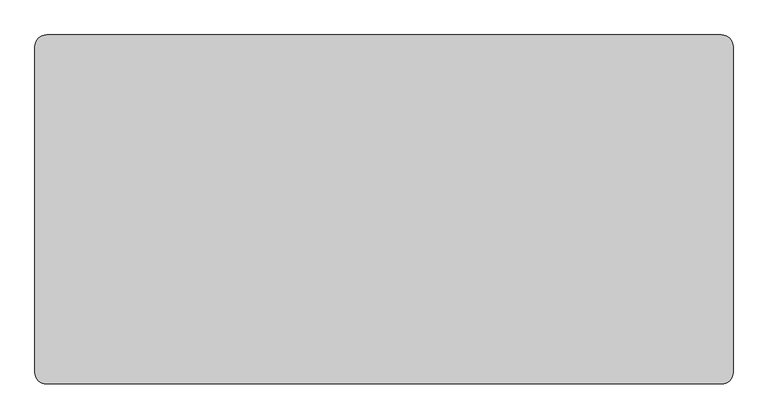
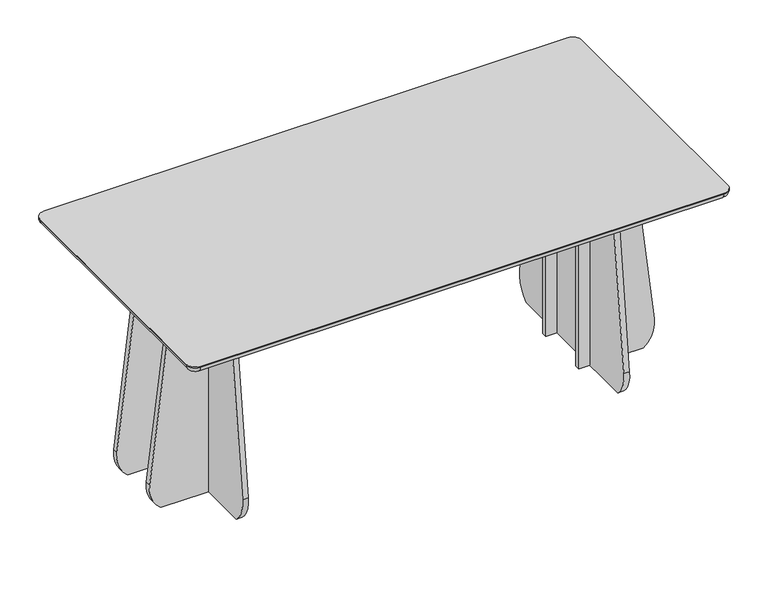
"""IFC4 building model written with IfcOpenShell, lengths in millimetres: furniture geometry, Lundbergs Möbler - Funghi Largo - Table - Rectangular - 180x90 - H73 : Lundbergs Möbler - Funghi Largo - Table - Rectangular - 180x90 - H73."""

import ifcopenshell
import ifcopenshell.guid

model = None  # the IFC model being written
_history = None  # IfcOwnerHistory: only IFC2X3 demands one
_inside = {}  # id of a spatial element -> (the spatial element, [elements in it])
_under = {}  # id of a project, library or spatial element -> (it, [spatial elements below it])
_declared = {}  # id of a project -> (the project, [libraries it declares])
_typed = {}  # id of a type object -> (the type object, [elements of that type])
_made_of = {}  # id of a material, layer set ... -> (it, [elements and type objects made of it])


def new_model(schema):
    """Start an empty IFC model of exactly this schema.

    Asked for "IFC4X3", IfcOpenShell would pick the latest addendum, in which some entities
    have other attributes; the version numbers below select the first issue.
    IFC2X3 requires an IfcOwnerHistory on every rooted entity: one is made here for all.
    """
    global model, _history
    if schema == "IFC4X3":
        model = ifcopenshell.file(schema_version=(4, 3, 0, 0))
    else:
        model = ifcopenshell.file(schema=schema)
    _inside.clear()
    _under.clear()
    _declared.clear()
    _typed.clear()
    _made_of.clear()
    _history = None
    if model.schema == "IFC2X3":
        org = make("IfcOrganization", Name="unknown")
        user = make(
            "IfcPersonAndOrganization",
            ThePerson=make("IfcPerson", FamilyName="unknown"),
            TheOrganization=org,
        )
        app = make(
            "IfcApplication",
            ApplicationDeveloper=org,
            Version="unknown",
            ApplicationFullName="unknown",
            ApplicationIdentifier="unknown",
        )
        _history = make(
            "IfcOwnerHistory",
            OwningUser=user,
            OwningApplication=app,
            ChangeAction="ADDED",
            CreationDate=0,
        )
    return model


def make(cls, **values):
    """One entity of the class cls with the attributes given. An attribute that is None is left unset."""
    return model.create_entity(
        cls, **{name: value for name, value in values.items() if value is not None}
    )


def rooted(cls, **values):
    """An entity with a GlobalId (a new one), such as an element, a storey or a relation."""
    return make(cls, GlobalId=ifcopenshell.guid.new(), OwnerHistory=_history, **values)


def si_unit(unit_type, name, prefix=None):
    """IfcSIUnit, for example si_unit("LENGTHUNIT", "METRE", prefix="MILLI")."""
    return make("IfcSIUnit", UnitType=unit_type, Prefix=prefix, Name=name)


def assignment(units):
    """IfcUnitAssignment: the units of a project."""
    return None if units is None else make("IfcUnitAssignment", Units=units)


def point(xyz):
    """IfcCartesianPoint."""
    return None if xyz is None else make("IfcCartesianPoint", Coordinates=xyz)


def direction(xyz):
    """IfcDirection."""
    return None if xyz is None else make("IfcDirection", DirectionRatios=xyz)


def frame(location, z_axis=None, x_axis=None):
    """IfcAxis2Placement3D, a coordinate frame: its origin and axes. An axis left out is left unset."""
    return make(
        "IfcAxis2Placement3D",
        Location=point(location),
        Axis=direction(z_axis),
        RefDirection=direction(x_axis),
    )


def frame_2d(location, x_axis=None):
    """IfcAxis2Placement2D, a coordinate frame in the plane: its origin and x axis."""
    return make(
        "IfcAxis2Placement2D", Location=point(location), RefDirection=direction(x_axis)
    )


def origin():
    """The frame at (0, 0, 0) with its axes left unset."""
    return frame((0.0, 0.0, 0.0))


def place(relative_to, where):
    """IfcLocalPlacement: puts the frame where relative to a parent placement (None: the world)."""
    return make(
        "IfcLocalPlacement", PlacementRelTo=relative_to, RelativePlacement=where
    )


def context(
    kind, dimensions, precision=None, world=None, true_north=None, identifier=None
):
    """IfcGeometricRepresentationContext, for example the 3D "Model" context."""
    return make(
        "IfcGeometricRepresentationContext",
        ContextIdentifier=identifier,
        ContextType=kind,
        CoordinateSpaceDimension=dimensions,
        Precision=precision,
        WorldCoordinateSystem=world,
        TrueNorth=true_north,
    )


def project(units=None, contexts=None):
    """IfcProject with its units and contexts."""
    return rooted(
        "IfcProject",
        Name="project",
        RepresentationContexts=contexts,
        UnitsInContext=assignment(units),
    )


def spatial(cls, under=None, at=None, **own):
    """A site, building, storey or space (cls), placed at a placement, below another one or the project."""
    s = rooted(cls, ObjectPlacement=at, **own)
    if under is not None:
        _under.setdefault(under.id(), (under, []))[1].append(s)
    return s


def polyline(points):
    """IfcPolyline through the points."""
    return make("IfcPolyline", Points=[point(p) for p in points])


def circle_curve(where, radius):
    """IfcCircle in the frame where."""
    return make("IfcCircle", Position=where, Radius=radius)


def ellipse_curve(where, semi_axis1, semi_axis2):
    """IfcEllipse in the frame where."""
    return make(
        "IfcEllipse", Position=where, SemiAxis1=semi_axis1, SemiAxis2=semi_axis2
    )


def trimmed(basis, trim1, trim2, sense, master):
    """IfcTrimmedCurve: the piece of a basis curve between two trims."""
    return make(
        "IfcTrimmedCurve",
        BasisCurve=basis,
        Trim1=trim1,
        Trim2=trim2,
        SenseAgreement=sense,
        MasterRepresentation=master,
    )


def segment(curve, same_sense, transition):
    """IfcCompositeCurveSegment."""
    return make(
        "IfcCompositeCurveSegment",
        Transition=transition,
        SameSense=same_sense,
        ParentCurve=curve,
    )


def composite_curve(segments, self_intersect=None):
    """IfcCompositeCurve: segments joined end to end."""
    return make("IfcCompositeCurve", Segments=segments, SelfIntersect=self_intersect)


def outline(outer, holes=None, kind="AREA"):
    """IfcArbitraryClosedProfileDef: a profile drawn as a closed curve; with holes, ...WithVoids."""
    if holes is None:
        return make("IfcArbitraryClosedProfileDef", ProfileType=kind, OuterCurve=outer)
    return make(
        "IfcArbitraryProfileDefWithVoids",
        ProfileType=kind,
        OuterCurve=outer,
        InnerCurves=holes,
    )


def extrude(swept, where, along, depth):
    """IfcExtrudedAreaSolid: the profile swept, set in the frame where, extruded along a direction by depth."""
    return make(
        "IfcExtrudedAreaSolid",
        SweptArea=swept,
        Position=where,
        ExtrudedDirection=direction(along),
        Depth=depth,
    )


def shape(context_of_items, identifier, shape_type, items):
    """IfcShapeRepresentation: the items that make up one representation, for example the "Body"."""
    return make(
        "IfcShapeRepresentation",
        ContextOfItems=context_of_items,
        RepresentationIdentifier=identifier,
        RepresentationType=shape_type,
        Items=items,
    )


def source(mapping_origin, context_of_items, identifier, shape_type, items):
    """IfcRepresentationMap: a shape defined once, which mapped items show again and again."""
    return make(
        "IfcRepresentationMap",
        MappingOrigin=mapping_origin,
        MappedRepresentation=shape(context_of_items, identifier, shape_type, items),
    )


def transform(
    local_origin,
    x_axis=None,
    y_axis=None,
    z_axis=None,
    scale=None,
    scale2=None,
    scale3=None,
    uniform=True,
):
    """IfcCartesianTransformationOperator3D, or its non-uniform kind. x_axis, y_axis, z_axis: its Axis1, 2, 3."""
    if uniform:
        return make(
            "IfcCartesianTransformationOperator3D",
            Axis1=direction(x_axis),
            Axis2=direction(y_axis),
            LocalOrigin=point(local_origin),
            Scale=scale,
            Axis3=direction(z_axis),
        )
    return make(
        "IfcCartesianTransformationOperator3DnonUniform",
        Axis1=direction(x_axis),
        Axis2=direction(y_axis),
        LocalOrigin=point(local_origin),
        Scale=scale,
        Axis3=direction(z_axis),
        Scale2=scale2,
        Scale3=scale3,
    )


def mapped(mapping_source, mapping_target):
    """IfcMappedItem: shows the shape of a source again, moved by a transform."""
    return make(
        "IfcMappedItem", MappingSource=mapping_source, MappingTarget=mapping_target
    )


def made_of(thing, what):
    """Note that an element or type object is made of a material, layer set ...; save() writes the relation."""
    if what is not None:
        _made_of.setdefault(what.id(), (what, []))[1].append(thing)
    return thing


def element(
    cls,
    number,
    at=None,
    inside=None,
    cuts=None,
    type_object=None,
    material=None,
    context=None,
    identifier="Body",
    shape_type=None,
    held_by="IfcProductDefinitionShape",
    body=None,
    shapes=None,
    **own,
):
    """One element of the class cls, such as IfcWall. Its Tag is "e" and its number.

    at: its placement. inside: the storey or other place that contains it. cuts: it is an
    opening in that element (IfcRelVoidsElement). A single representation is given by context,
    identifier, shape_type and body (its items); several are given by shapes. held_by: the class
    of the entity that holds the representations. save() writes the other relations.
    """
    e = rooted(cls, Tag="e%d" % number, ObjectPlacement=at, **own)
    if body is not None:
        shapes = [shape(context, identifier, shape_type, body)]
    if shapes is not None:
        e.Representation = make(held_by, Representations=shapes)
    if inside is not None:
        _inside.setdefault(inside.id(), (inside, []))[1].append(e)
    if cuts is not None:
        rooted(
            "IfcRelVoidsElement", RelatingBuildingElement=cuts, RelatedOpeningElement=e
        )
    if type_object is not None:
        _typed.setdefault(type_object.id(), (type_object, []))[1].append(e)
    return made_of(e, material)


def aggregate(whole, parts):
    """IfcRelAggregates: a whole, such as a stair, and the parts it consists of."""
    return rooted("IfcRelAggregates", RelatingObject=whole, RelatedObjects=parts)


def save(model, path):
    """Write the relations noted so far, then the file.

    IfcRelAggregates (storeys below a building ...), IfcRelContainedInSpatialStructure (elements
    in a storey), IfcRelDefinesByType, IfcRelAssociatesMaterial and IfcRelDeclares: one each for
    every whole, place, type object, material and project.
    """
    for whole, parts in _under.values():
        aggregate(whole, parts)
    for where, things in _inside.values():
        rooted(
            "IfcRelContainedInSpatialStructure",
            RelatedElements=things,
            RelatingStructure=where,
        )
    for kind, things in _typed.values():
        rooted("IfcRelDefinesByType", RelatedObjects=things, RelatingType=kind)
    for what, things in _made_of.values():
        rooted("IfcRelAssociatesMaterial", RelatedObjects=things, RelatingMaterial=what)
    for by, libraries in _declared.values():
        rooted("IfcRelDeclares", RelatingContext=by, RelatedDefinitions=libraries)
    model.write(path)


def plane_surface(at):
    """IfcPlane: the flat surface through the origin of the frame at, square to its z axis."""
    return make("IfcPlane", Position=at)


def cylinder_surface(at, radius):
    """IfcCylindricalSurface: all points at the distance radius from the z axis of the frame at."""
    return make("IfcCylindricalSurface", Position=at, Radius=radius)


def revolved_surface(curve, axis_point, axis_direction):
    """IfcSurfaceOfRevolution: the curve turned about the line through axis_point along axis_direction."""
    return make(
        "IfcSurfaceOfRevolution",
        SweptCurve=make("IfcArbitraryOpenProfileDef", ProfileType="CURVE", Curve=curve),
        AxisPosition=make("IfcAxis1Placement", Location=point(axis_point), Axis=direction(axis_direction)),
    )


def advanced_brep(points, edges, surfaces, faces):
    """IfcAdvancedBrep: a solid bounded by faces that lie on surfaces and meet in shared edges.

    An edge is (start, end): straight between two places in points (the first is 0);
    or (start, end, curve); or (start, end, curve, False) where it runs against its curve.
    A face is (place in surfaces, loops), or (place, loops, False) where it looks against
    its surface's normal. A loop lists edges by number (the first is 1), with a minus sign
    where the edge is run from its end to its start. The first loop is the outer one.
    """
    corners = [point(p) for p in points]
    vertices = [make("IfcVertexPoint", VertexGeometry=c) for c in corners]
    made = []
    for start, end, *more in edges:
        made.append(
            make(
                "IfcEdgeCurve",
                EdgeStart=vertices[start],
                EdgeEnd=vertices[end],
                EdgeGeometry=more[0] if more else make("IfcPolyline", Points=[corners[start], corners[end]]),
                SameSense=more[1] if len(more) > 1 else True,
            )
        )
    hull = []
    for where, loops, *sense in faces:
        bounds = []
        for j, loop in enumerate(loops):
            ring = [make("IfcOrientedEdge", EdgeElement=made[abs(k) - 1], Orientation=k > 0) for k in loop]
            bounds.append(
                make(
                    "IfcFaceOuterBound" if j == 0 else "IfcFaceBound",
                    Bound=make("IfcEdgeLoop", EdgeList=ring),
                    Orientation=True,
                )
            )
        hull.append(make("IfcAdvancedFace", Bounds=bounds, FaceSurface=surfaces[where], SameSense=sense[0] if sense else True))
    return make("IfcAdvancedBrep", Outer=make("IfcClosedShell", CfsFaces=hull))


def furniture_1f910224(model_context):
    return source(origin(), model_context, "Body", "SolidModel", [
        advanced_brep(
        [(-880.0, 420.0, 706.0), (-900.0, 420.0, 726.0), (-870.0, 450.0, 726.0), (-870.0, 430.0, 706.0), (-880.0, -420.0, 706.0), (-900.0, -420.0, 726.0), (-870.0, -430.0, 706.0), (-870.0, -450.0, 726.0), (870.0, -430.0, 706.0), (870.0, -450.0, 726.0), (880.0, -420.0, 706.0), (900.0, -420.0, 726.0), (880.0, 420.0, 706.0), (900.0, 420.0, 726.0), (870.0, 430.0, 706.0), (870.0, 450.0, 726.0), (870.0, 450.0, 730.0), (-870.0, 450.0, 730.0), (-900.0, 420.0, 730.0), (-900.0, -420.0, 730.0), (-870.0, -450.0, 730.0), (870.0, -450.0, 730.0), (900.0, -420.0, 730.0), (900.0, 420.0, 730.0)],
        [
            (0, 1, circle_curve(frame((-880.0, 420.0, 726.0), z_axis=(0.0, 1.0, 0.0), x_axis=(1.0, 0.0, 0.0)), 20.0)),
            (1, 2, circle_curve(frame((-870.0, 420.0, 726.0), z_axis=(0.0, 0.0, -1.0), x_axis=(0.0, 1.0, 0.0)), 30.0)),
            (2, 3, circle_curve(frame((-870.0, 430.0, 726.0), z_axis=(-1.0, 0.0, 0.0), x_axis=(0.0, -1.0, 0.0)), 20.0)),
            (3, 0, circle_curve(frame((-870.0, 420.0, 706.0), z_axis=(0.0, 0.0, 1.0), x_axis=(0.0, 1.0, 0.0)), 10.0)),
            (0, 4),
            (4, 5, circle_curve(frame((-880.0, -420.0, 726.0), z_axis=(0.0, 1.0, 0.0), x_axis=(1.0, 0.0, 0.0)), 20.0)),
            (5, 1),
            (4, 6, circle_curve(frame((-870.0, -420.0, 706.0), z_axis=(0.0, 0.0, 1.0), x_axis=(-1.0, 0.0, 0.0)), 10.0)),
            (6, 7, circle_curve(frame((-870.0, -430.0, 726.0), z_axis=(-1.0, 0.0, 0.0), x_axis=(0.0, 1.0, 0.0)), 20.0)),
            (7, 5, circle_curve(frame((-870.0, -420.0, 726.0), z_axis=(0.0, 0.0, -1.0), x_axis=(-1.0, 0.0, 0.0)), 30.0)),
            (6, 8),
            (8, 9, circle_curve(frame((870.0, -430.0, 726.0), z_axis=(-1.0, 0.0, 0.0), x_axis=(0.0, 1.0, 0.0)), 20.0)),
            (9, 7),
            (8, 10, circle_curve(frame((870.0, -420.0, 706.0), z_axis=(0.0, 0.0, 1.0), x_axis=(0.0, -1.0, 0.0)), 10.0)),
            (10, 11, circle_curve(frame((880.0, -420.0, 726.0), z_axis=(0.0, -1.0, 0.0), x_axis=(-1.0, 0.0, 0.0)), 20.0)),
            (11, 9, circle_curve(frame((870.0, -420.0, 726.0), z_axis=(0.0, 0.0, -1.0), x_axis=(0.0, -1.0, 0.0)), 30.0)),
            (10, 12),
            (12, 13, circle_curve(frame((880.0, 420.0, 726.0), z_axis=(0.0, -1.0, 0.0), x_axis=(-1.0, 0.0, 0.0)), 20.0)),
            (13, 11),
            (12, 14, circle_curve(frame((870.0, 420.0, 706.0), z_axis=(0.0, 0.0, 1.0), x_axis=(1.0, 0.0, 0.0)), 10.0)),
            (14, 15, circle_curve(frame((870.0, 430.0, 726.0), z_axis=(1.0, 0.0, 0.0), x_axis=(0.0, -1.0, 0.0)), 20.0)),
            (15, 13, circle_curve(frame((870.0, 420.0, 726.0), z_axis=(0.0, 0.0, -1.0), x_axis=(1.0, 0.0, 0.0)), 30.0)),
            (2, 15),
            (14, 3),
            (16, 17),
            (17, 18, circle_curve(frame((-870.0, 420.0, 730.0), z_axis=(0.0, 0.0, 1.0), x_axis=(0.0, 1.0, 0.0)), 30.0)),
            (18, 19),
            (19, 20, circle_curve(frame((-870.0, -420.0, 730.0), z_axis=(0.0, 0.0, 1.0), x_axis=(0.0, 1.0, 0.0)), 30.0)),
            (20, 21),
            (21, 22, circle_curve(frame((870.0, -420.0, 730.0), z_axis=(0.0, 0.0, 1.0), x_axis=(0.0, 1.0, 0.0)), 30.0)),
            (22, 23),
            (23, 16, circle_curve(frame((870.0, 420.0, 730.0), z_axis=(0.0, 0.0, 1.0), x_axis=(0.0, 1.0, 0.0)), 30.0)),
            (16, 15),
            (2, 17),
            (1, 18),
            (5, 19),
            (7, 20),
            (9, 21),
            (11, 22),
            (13, 23),
        ],
        [
            revolved_surface(trimmed(ellipse_curve(frame((-870.0, 430.0, 726.0), z_axis=(1.0, 0.0, 0.0), x_axis=(0.0, -1.0, 0.0)), 20.0, 20.0), [point((-870.0, 430.0, 706.0))], [point((-870.0, 450.0, 726.0))], True, "CARTESIAN"), (-870.0, 420.0, 0.0), (0.0, 0.0, 1.0)),
            cylinder_surface(frame((-880.0, 420.0, 726.0), z_axis=(0.0, -1.0, 0.0), x_axis=(1.0, 0.0, 0.0)), 20.0),
            revolved_surface(trimmed(ellipse_curve(frame((-880.0, -420.0, 726.0), z_axis=(0.0, 1.0, 0.0), x_axis=(1.0, 0.0, 0.0)), 20.0, 20.0), [point((-880.0, -420.0, 706.0))], [point((-900.0, -420.0, 726.0))], True, "CARTESIAN"), (-870.0, -420.0, 0.0), (0.0, 0.0, 1.0)),
            cylinder_surface(frame((-870.0, -430.0, 726.0), z_axis=(1.0, 0.0, 0.0), x_axis=(0.0, 1.0, 0.0)), 20.0),
            revolved_surface(trimmed(ellipse_curve(frame((870.0, -430.0, 726.0), z_axis=(-1.0, 0.0, 0.0), x_axis=(0.0, 1.0, 0.0)), 20.0, 20.0), [point((870.0, -430.0, 706.0))], [point((870.0, -450.0, 726.0))], True, "CARTESIAN"), (870.0, -420.0, 0.0), (0.0, 0.0, 1.0)),
            cylinder_surface(frame((880.0, -420.0, 726.0), z_axis=(0.0, 1.0, 0.0), x_axis=(-1.0, 0.0, 0.0)), 20.0),
            revolved_surface(trimmed(ellipse_curve(frame((880.0, 420.0, 726.0), z_axis=(0.0, -1.0, 0.0), x_axis=(-1.0, 0.0, 0.0)), 20.0, 20.0), [point((880.0, 420.0, 706.0))], [point((900.0, 420.0, 726.0))], True, "CARTESIAN"), (870.0, 420.0, 0.0), (0.0, 0.0, 1.0)),
            cylinder_surface(frame((870.0, 430.0, 726.0), z_axis=(-1.0, 0.0, 0.0), x_axis=(0.0, -1.0, 0.0)), 20.0),
            plane_surface(frame((-870.0, 450.0, 730.0), z_axis=(0.0, 0.0, 1.0), x_axis=(-1.0, 0.0, 0.0))),
            plane_surface(frame((-870.0, 450.0, 706.0), z_axis=(0.0, 0.0, -1.0), x_axis=(1.0, 0.0, 0.0))),
            plane_surface(frame((870.0, 450.0, 730.0), z_axis=(0.0, 1.0, 0.0), x_axis=(0.0, 0.0, -1.0))),
            cylinder_surface(frame((-870.0, 420.0, 706.0), z_axis=(0.0, 0.0, 1.0), x_axis=(0.0, 1.0, 0.0)), 30.0),
            plane_surface(frame((-900.0, 420.0, 730.0), z_axis=(-1.0, 0.0, 0.0), x_axis=(0.0, 0.0, -1.0))),
            cylinder_surface(frame((-870.0, -420.0, 706.0), z_axis=(0.0, 0.0, 1.0), x_axis=(0.0, 1.0, 0.0)), 30.0),
            plane_surface(frame((-870.0, -450.0, 730.0), z_axis=(0.0, -1.0, 0.0), x_axis=(0.0, 0.0, -1.0))),
            cylinder_surface(frame((870.0, -420.0, 706.0), z_axis=(0.0, 0.0, 1.0), x_axis=(0.0, 1.0, 0.0)), 30.0),
            plane_surface(frame((900.0, -420.0, 730.0), z_axis=(1.0, 0.0, 0.0), x_axis=(0.0, 0.0, -1.0))),
            cylinder_surface(frame((870.0, 420.0, 706.0), z_axis=(0.0, 0.0, 1.0), x_axis=(0.0, 1.0, 0.0)), 30.0),
        ],
        [
            (0, [[1, 2, 3, 4]]),
            (1, [[-1, 5, 6, 7]]),
            (2, [[-6, 8, 9, 10]]),
            (3, [[-9, 11, 12, 13]]),
            (4, [[-12, 14, 15, 16]]),
            (5, [[-15, 17, 18, 19]]),
            (6, [[-18, 20, 21, 22]]),
            (7, [[-3, 23, -21, 24]]),
            (8, [[25, 26, 27, 28, 29, 30, 31, 32]]),
            (9, [[-4, -24, -20, -17, -14, -11, -8, -5]]),
            (10, [[-25, 33, -23, 34]]),
            (11, [[-26, -34, -2, 35]]),
            (12, [[-27, -35, -7, 36]]),
            (13, [[-28, -36, -10, 37]]),
            (14, [[-29, -37, -13, 38]]),
            (15, [[-30, -38, -16, 39]]),
            (16, [[-31, -39, -19, 40]]),
            (17, [[-32, -40, -22, -33]]),
        ],
    ),
        extrude(outline(composite_curve([segment(polyline([(681.25, 180.0), (717.25, 180.0)]), True, "CONTINUOUS"), segment(trimmed(circle_curve(frame_2d((717.25, 178.0)), 2.0), [point((717.25, 180.0))], [point((719.25, 178.0))], False, "CARTESIAN"), True, "CONTINUOUS"), segment(polyline([(719.25, 178.0), (719.25, -178.0)]), True, "CONTINUOUS"), segment(trimmed(circle_curve(frame_2d((717.25, -178.0)), 2.0), [point((719.25, -178.0))], [point((717.25, -180.0))], False, "CARTESIAN"), True, "CONTINUOUS"), segment(polyline([(717.25, -180.0), (681.25, -180.0)]), True, "CONTINUOUS"), segment(trimmed(circle_curve(frame_2d((681.25, -178.0)), 2.0), [point((681.25, -180.0))], [point((679.25, -178.0))], False, "CARTESIAN"), True, "CONTINUOUS"), segment(polyline([(679.25, -178.0), (679.25, 178.0)]), True, "CONTINUOUS"), segment(trimmed(circle_curve(frame_2d((681.25, 178.0)), 2.0), [point((679.25, 178.0))], [point((681.25, 180.0))], False, "CARTESIAN"), True, "CONTINUOUS")], self_intersect=False)), frame((0.0, 0.0, 686.0), z_axis=(0.0, 0.0, 1.0), x_axis=(1.0, 0.0, 0.0)), (0.0, 0.0, 1.0), 20.0),
        extrude(outline(composite_curve([segment(polyline([(561.25, 180.0), (651.25, 180.0)]), True, "CONTINUOUS"), segment(trimmed(circle_curve(frame_2d((651.25, 176.5)), 3.5), [point((651.25, 180.0))], [point((654.75, 176.5))], False, "CARTESIAN"), True, "CONTINUOUS"), segment(polyline([(654.75, 176.5), (654.75, 143.5)]), True, "CONTINUOUS"), segment(trimmed(circle_curve(frame_2d((651.25, 143.5)), 3.5), [point((654.75, 143.5))], [point((651.25, 140.0))], False, "CARTESIAN"), True, "CONTINUOUS"), segment(polyline([(651.25, 140.0), (561.25, 140.0)]), True, "CONTINUOUS"), segment(trimmed(circle_curve(frame_2d((561.25, 143.5)), 3.5), [point((561.25, 140.0))], [point((557.75, 143.5))], False, "CARTESIAN"), True, "CONTINUOUS"), segment(polyline([(557.75, 143.5), (557.75, 176.5)]), True, "CONTINUOUS"), segment(trimmed(circle_curve(frame_2d((561.25, 176.5)), 3.5), [point((557.75, 176.5))], [point((561.25, 180.0))], False, "CARTESIAN"), True, "CONTINUOUS")], self_intersect=False)), frame((0.0, 0.0, 686.0), z_axis=(0.0, 0.0, 1.0), x_axis=(1.0, 0.0, 0.0)), (0.0, 0.0, 1.0), 20.0),
        extrude(outline(composite_curve([segment(polyline([(561.25, -140.0), (651.25, -140.0)]), True, "CONTINUOUS"), segment(trimmed(circle_curve(frame_2d((651.25, -143.5)), 3.5), [point((651.25, -140.0))], [point((654.75, -143.5))], False, "CARTESIAN"), True, "CONTINUOUS"), segment(polyline([(654.75, -143.5), (654.75, -176.5)]), True, "CONTINUOUS"), segment(trimmed(circle_curve(frame_2d((651.25, -176.5)), 3.5), [point((654.75, -176.5))], [point((651.25, -180.0))], False, "CARTESIAN"), True, "CONTINUOUS"), segment(polyline([(651.25, -180.0), (561.25, -180.0)]), True, "CONTINUOUS"), segment(trimmed(circle_curve(frame_2d((561.25, -176.5)), 3.5), [point((561.25, -180.0))], [point((557.75, -176.5))], False, "CARTESIAN"), True, "CONTINUOUS"), segment(polyline([(557.75, -176.5), (557.75, -143.5)]), True, "CONTINUOUS"), segment(trimmed(circle_curve(frame_2d((561.25, -143.5)), 3.5), [point((557.75, -143.5))], [point((561.25, -140.0))], False, "CARTESIAN"), True, "CONTINUOUS")], self_intersect=False)), frame((0.0, 0.0, 686.0), z_axis=(0.0, 0.0, 1.0), x_axis=(1.0, 0.0, 0.0)), (0.0, 0.0, 1.0), 20.0),
        extrude(outline(composite_curve([segment(trimmed(circle_curve(frame_2d((200.0, 78.0350603)), 100.0), [point((299.2807726, 90.0070355))], [point((262.5342255, 0.0))], False, "CARTESIAN"), True, "CONTINUOUS"), segment(polyline([(262.5342255, 0.0), (-262.5342255, 0.0)]), True, "CONTINUOUS"), segment(trimmed(circle_curve(frame_2d((-200.0, 78.0350603)), 100.0), [point((-262.5342255, 0.0))], [point((-299.2807726, 90.0070355))], False, "CARTESIAN"), True, "CONTINUOUS"), segment(polyline([(-299.2807726, 90.0070355), (-224.9955121, 706.0372169), (224.9955121, 706.0372169), (299.2807726, 90.0070355)]), True, "CONTINUOUS")], self_intersect=False)), frame((624.25, 0.0, 0.0), z_axis=(1.0, 0.0, 0.0), x_axis=(0.0, 1.0, 0.0)), (0.0, 0.0, 1.0), 18.5),
        extrude(outline(composite_curve([segment(polyline([(90.0070355, 838.5307726), (706.0372169, 764.2455121), (706.0372169, 587.25), (0.0, 587.25), (0.0, 801.7842255)]), True, "CONTINUOUS"), segment(trimmed(circle_curve(frame_2d((78.0350603, 739.25)), 100.0), [point((0.0, 801.7842255))], [point((90.0070355, 838.5307726))], False, "CARTESIAN"), True, "CONTINUOUS")], self_intersect=False)), frame((0.0, 85.5, 0.0), z_axis=(0.0, 1.0, 0.0), x_axis=(0.0, 0.0, 1.0)), (0.0, 0.0, 1.0), 18.0),
        extrude(outline(composite_curve([segment(polyline([(90.0070355, 838.5307726), (706.0372169, 764.2455121), (706.0372169, 587.25), (0.0, 587.25), (0.0, 801.7842255)]), True, "CONTINUOUS"), segment(trimmed(circle_curve(frame_2d((78.0350603, 739.25)), 100.0), [point((0.0, 801.7842255))], [point((90.0070355, 838.5307726))], False, "CARTESIAN"), True, "CONTINUOUS")], self_intersect=False)), frame((0.0, -103.5, 0.0), z_axis=(0.0, 1.0, 0.0), x_axis=(0.0, 0.0, 1.0)), (0.0, 0.0, 1.0), 18.0),
        extrude(outline(composite_curve([segment(trimmed(circle_curve(frame_2d((-681.25, 178.0)), 2.0), [point((-681.25, 180.0))], [point((-679.25, 178.0))], False, "CARTESIAN"), True, "CONTINUOUS"), segment(polyline([(-679.25, 178.0), (-679.25, -178.0)]), True, "CONTINUOUS"), segment(trimmed(circle_curve(frame_2d((-681.25, -178.0)), 2.0), [point((-679.25, -178.0))], [point((-681.25, -180.0))], False, "CARTESIAN"), True, "CONTINUOUS"), segment(polyline([(-681.25, -180.0), (-717.25, -180.0)]), True, "CONTINUOUS"), segment(trimmed(circle_curve(frame_2d((-717.25, -178.0)), 2.0), [point((-717.25, -180.0))], [point((-719.25, -178.0))], False, "CARTESIAN"), True, "CONTINUOUS"), segment(polyline([(-719.25, -178.0), (-719.25, 178.0)]), True, "CONTINUOUS"), segment(trimmed(circle_curve(frame_2d((-717.25, 178.0)), 2.0), [point((-719.25, 178.0))], [point((-717.25, 180.0))], False, "CARTESIAN"), True, "CONTINUOUS"), segment(polyline([(-717.25, 180.0), (-681.25, 180.0)]), True, "CONTINUOUS")], self_intersect=False)), frame((0.0, 0.0, 686.0), z_axis=(0.0, 0.0, 1.0), x_axis=(1.0, 0.0, 0.0)), (0.0, 0.0, 1.0), 20.0),
        extrude(outline(composite_curve([segment(trimmed(circle_curve(frame_2d((-561.25, 176.5)), 3.5), [point((-561.25, 180.0))], [point((-557.75, 176.5))], False, "CARTESIAN"), True, "CONTINUOUS"), segment(polyline([(-557.75, 176.5), (-557.75, 143.5)]), True, "CONTINUOUS"), segment(trimmed(circle_curve(frame_2d((-561.25, 143.5)), 3.5), [point((-557.75, 143.5))], [point((-561.25, 140.0))], False, "CARTESIAN"), True, "CONTINUOUS"), segment(polyline([(-561.25, 140.0), (-651.25, 140.0)]), True, "CONTINUOUS"), segment(trimmed(circle_curve(frame_2d((-651.25, 143.5)), 3.5), [point((-651.25, 140.0))], [point((-654.75, 143.5))], False, "CARTESIAN"), True, "CONTINUOUS"), segment(polyline([(-654.75, 143.5), (-654.75, 176.5)]), True, "CONTINUOUS"), segment(trimmed(circle_curve(frame_2d((-651.25, 176.5)), 3.5), [point((-654.75, 176.5))], [point((-651.25, 180.0))], False, "CARTESIAN"), True, "CONTINUOUS"), segment(polyline([(-651.25, 180.0), (-561.25, 180.0)]), True, "CONTINUOUS")], self_intersect=False)), frame((0.0, 0.0, 686.0), z_axis=(0.0, 0.0, 1.0), x_axis=(1.0, 0.0, 0.0)), (0.0, 0.0, 1.0), 20.0),
        extrude(outline(composite_curve([segment(trimmed(circle_curve(frame_2d((-561.25, -143.5)), 3.5), [point((-561.25, -140.0))], [point((-557.75, -143.5))], False, "CARTESIAN"), True, "CONTINUOUS"), segment(polyline([(-557.75, -143.5), (-557.75, -176.5)]), True, "CONTINUOUS"), segment(trimmed(circle_curve(frame_2d((-561.25, -176.5)), 3.5), [point((-557.75, -176.5))], [point((-561.25, -180.0))], False, "CARTESIAN"), True, "CONTINUOUS"), segment(polyline([(-561.25, -180.0), (-651.25, -180.0)]), True, "CONTINUOUS"), segment(trimmed(circle_curve(frame_2d((-651.25, -176.5)), 3.5), [point((-651.25, -180.0))], [point((-654.75, -176.5))], False, "CARTESIAN"), True, "CONTINUOUS"), segment(polyline([(-654.75, -176.5), (-654.75, -143.5)]), True, "CONTINUOUS"), segment(trimmed(circle_curve(frame_2d((-651.25, -143.5)), 3.5), [point((-654.75, -143.5))], [point((-651.25, -140.0))], False, "CARTESIAN"), True, "CONTINUOUS"), segment(polyline([(-651.25, -140.0), (-561.25, -140.0)]), True, "CONTINUOUS")], self_intersect=False)), frame((0.0, 0.0, 686.0), z_axis=(0.0, 0.0, 1.0), x_axis=(1.0, 0.0, 0.0)), (0.0, 0.0, 1.0), 20.0),
        extrude(outline(composite_curve([segment(trimmed(circle_curve(frame_2d((200.0, 78.0350603)), 100.0), [point((299.2807726, 90.0070355))], [point((262.5342255, 0.0))], False, "CARTESIAN"), True, "CONTINUOUS"), segment(polyline([(262.5342255, 0.0), (-262.5342255, 0.0)]), True, "CONTINUOUS"), segment(trimmed(circle_curve(frame_2d((-200.0, 78.0350603)), 100.0), [point((-262.5342255, 0.0))], [point((-299.2807726, 90.0070355))], False, "CARTESIAN"), True, "CONTINUOUS"), segment(polyline([(-299.2807726, 90.0070355), (-224.9955121, 706.0372169), (224.9955121, 706.0372169), (299.2807726, 90.0070355)]), True, "CONTINUOUS")], self_intersect=False)), frame((-642.75, 0.0, 0.0), z_axis=(1.0, 0.0, 0.0), x_axis=(0.0, 1.0, 0.0)), (0.0, 0.0, 1.0), 18.5),
        extrude(outline(composite_curve([segment(trimmed(circle_curve(frame_2d((78.0350603, -739.25)), 100.0), [point((90.0070355, -838.5307726))], [point((0.0, -801.7842255))], False, "CARTESIAN"), True, "CONTINUOUS"), segment(polyline([(0.0, -801.7842255), (0.0, -587.25), (706.0372169, -587.25), (706.0372169, -764.2455121), (90.0070355, -838.5307726)]), True, "CONTINUOUS")], self_intersect=False)), frame((0.0, 85.5, 0.0), z_axis=(0.0, 1.0, 0.0), x_axis=(0.0, 0.0, 1.0)), (0.0, 0.0, 1.0), 18.0),
        extrude(outline(composite_curve([segment(trimmed(circle_curve(frame_2d((78.0350603, -739.25)), 100.0), [point((90.0070355, -838.5307726))], [point((0.0, -801.7842255))], False, "CARTESIAN"), True, "CONTINUOUS"), segment(polyline([(0.0, -801.7842255), (0.0, -587.25), (706.0372169, -587.25), (706.0372169, -764.2455121), (90.0070355, -838.5307726)]), True, "CONTINUOUS")], self_intersect=False)), frame((0.0, -103.5, 0.0), z_axis=(0.0, 1.0, 0.0), x_axis=(0.0, 0.0, 1.0)), (0.0, 0.0, 1.0), 18.0),
    ])


if __name__ == "__main__":
    model = new_model("IFC4")
    model_context = context("Model", 3, world=origin())
    ifc_project = project(units=[si_unit("LENGTHUNIT", "METRE", prefix="MILLI")], contexts=[model_context])
    site = spatial("IfcSite", under=ifc_project)
    building = spatial("IfcBuilding", under=site)
    placement = place(None, origin())
    furniture_shape = furniture_1f910224(model_context)
    element("IfcFurniture", 1, ObjectType="Lundbergs Möbler - Funghi Largo - Table - Rectangular - 180x90 - H73 : Lundbergs Möbler - Funghi Largo - Table - Rectangular - 180x90 - H73", at=placement, inside=building, context=model_context, shape_type="MappedRepresentation", body=[
        mapped(furniture_shape, transform((0.0, 0.0, 0.0), x_axis=(1.0, 0.0, 0.0), y_axis=(0.0, 1.0, 0.0), z_axis=(0.0, 0.0, 1.0))),
    ])
    save(model, "model.ifc")
